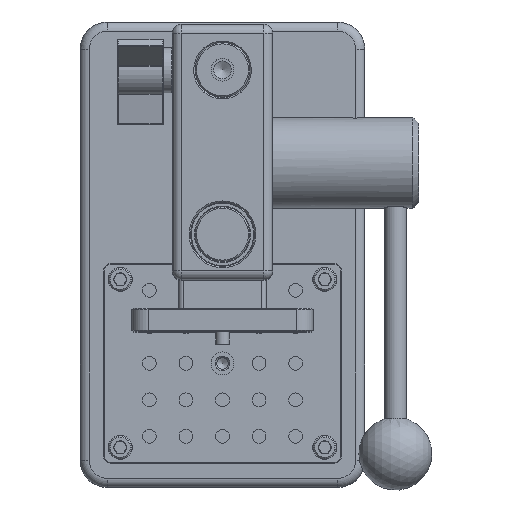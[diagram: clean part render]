
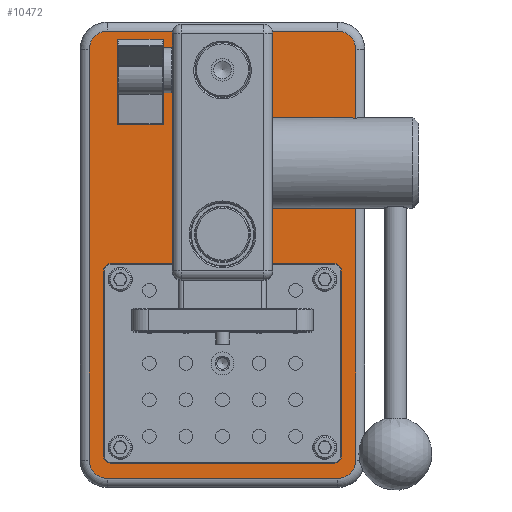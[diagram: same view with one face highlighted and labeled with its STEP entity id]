
A CAD part, top view. The second image highlights one B-rep face of the part: STEP entity #10472.
In plain terms, the highlighted planar face has unit normal (0, 0, 1).
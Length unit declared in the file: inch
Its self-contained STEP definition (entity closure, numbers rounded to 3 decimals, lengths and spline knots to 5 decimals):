
#8169=CARTESIAN_POINT('',(31.96631,2.10313,-5.809));
#8170=VERTEX_POINT('',#8169);
#8178=CARTESIAN_POINT('',(28.92631,2.10313,-5.809));
#8179=VERTEX_POINT('',#8178);
#8186=CARTESIAN_POINT('',(28.92631,2.10313,-5.809));
#8187=DIRECTION('',(1.0,0.0,0.0));
#8188=VECTOR('',#8187,3.04);
#8189=LINE('',#8186,#8188);
#8190=EDGE_CURVE('',#8179,#8170,#8189,.T.);
#8200=CARTESIAN_POINT('',(32.06631,2.20313,-5.809));
#8201=VERTEX_POINT('',#8200);
#8210=CARTESIAN_POINT('',(31.96631,2.20313,-5.809));
#8211=DIRECTION('',(0.,0.,1.0));
#8212=DIRECTION('',(0.707,-0.707,0.));
#8213=AXIS2_PLACEMENT_3D('',#8210,#8211,#8212);
#8214=CIRCLE('',#8213,0.1);
#8215=EDGE_CURVE('',#8170,#8201,#8214,.T.);
#8225=CARTESIAN_POINT('',(32.06631,4.72313,-5.809));
#8226=VERTEX_POINT('',#8225);
#8235=CARTESIAN_POINT('',(32.06631,2.20313,-5.809));
#8236=DIRECTION('',(0.0,1.0,0.0));
#8237=VECTOR('',#8236,2.52);
#8238=LINE('',#8235,#8237);
#8239=EDGE_CURVE('',#8201,#8226,#8238,.T.);
#8249=CARTESIAN_POINT('',(31.96631,4.82313,-5.809));
#8250=VERTEX_POINT('',#8249);
#8259=CARTESIAN_POINT('',(31.96631,4.72313,-5.809));
#8260=DIRECTION('',(0.,0.,1.0));
#8261=DIRECTION('',(0.707,0.707,0.));
#8262=AXIS2_PLACEMENT_3D('',#8259,#8260,#8261);
#8263=CIRCLE('',#8262,0.1);
#8264=EDGE_CURVE('',#8226,#8250,#8263,.T.);
#8275=CARTESIAN_POINT('',(28.92631,4.82313,-5.809));
#8276=VERTEX_POINT('',#8275);
#8277=CARTESIAN_POINT('',(31.96631,4.82313,-5.809));
#8278=DIRECTION('',(-1.0,0.0,0.0));
#8279=VECTOR('',#8278,3.04);
#8280=LINE('',#8277,#8279);
#8281=EDGE_CURVE('',#8250,#8276,#8280,.T.);
#8299=CARTESIAN_POINT('',(28.82631,4.72313,-5.809));
#8300=VERTEX_POINT('',#8299);
#8301=CARTESIAN_POINT('',(28.92631,4.72313,-5.809));
#8302=DIRECTION('',(0.,0.,1.0));
#8303=DIRECTION('',(-0.707,0.707,0.));
#8304=AXIS2_PLACEMENT_3D('',#8301,#8302,#8303);
#8305=CIRCLE('',#8304,0.1);
#8306=EDGE_CURVE('',#8276,#8300,#8305,.T.);
#8324=CARTESIAN_POINT('',(28.82631,2.20313,-5.809));
#8325=VERTEX_POINT('',#8324);
#8326=CARTESIAN_POINT('',(28.82631,4.72313,-5.809));
#8327=DIRECTION('',(0.0,-1.0,0.0));
#8328=VECTOR('',#8327,2.52);
#8329=LINE('',#8326,#8328);
#8330=EDGE_CURVE('',#8300,#8325,#8329,.T.);
#8348=CARTESIAN_POINT('',(28.92631,2.20313,-5.809));
#8349=DIRECTION('',(0.,0.,1.0));
#8350=DIRECTION('',(-0.707,-0.707,0.));
#8351=AXIS2_PLACEMENT_3D('',#8348,#8349,#8350);
#8352=CIRCLE('',#8351,0.1);
#8353=EDGE_CURVE('',#8325,#8179,#8352,.T.);
#8365=CARTESIAN_POINT('',(28.62131,2.13813,-5.809));
#8366=VERTEX_POINT('',#8365);
#8375=CARTESIAN_POINT('',(28.87131,1.88813,-5.809));
#8376=VERTEX_POINT('',#8375);
#8384=CARTESIAN_POINT('',(28.87131,2.13813,-5.809));
#8385=DIRECTION('',(0.0,0.0,-1.0));
#8386=DIRECTION('',(0.0,1.0,0.0));
#8387=AXIS2_PLACEMENT_3D('',#8384,#8385,#8386);
#8388=CIRCLE('',#8387,0.25);
#8389=EDGE_CURVE('',#8366,#8376,#8388,.F.);
#8399=CARTESIAN_POINT('',(28.62131,7.76313,-5.809));
#8400=VERTEX_POINT('',#8399);
#8410=CARTESIAN_POINT('',(28.62131,7.76313,-5.809));
#8411=DIRECTION('',(0.0,-1.0,0.0));
#8412=VECTOR('',#8411,5.625);
#8413=LINE('',#8410,#8412);
#8414=EDGE_CURVE('',#8400,#8366,#8413,.T.);
#8424=CARTESIAN_POINT('',(28.87131,8.01313,-5.809));
#8425=VERTEX_POINT('',#8424);
#8435=CARTESIAN_POINT('',(28.87131,7.76313,-5.809));
#8436=DIRECTION('',(0.0,0.0,-1.0));
#8437=DIRECTION('',(0.0,1.0,0.0));
#8438=AXIS2_PLACEMENT_3D('',#8435,#8436,#8437);
#8439=CIRCLE('',#8438,0.25);
#8440=EDGE_CURVE('',#8425,#8400,#8439,.F.);
#8451=CARTESIAN_POINT('',(32.02131,8.01313,-5.809));
#8452=VERTEX_POINT('',#8451);
#8453=CARTESIAN_POINT('',(32.02131,8.01313,-5.809));
#8454=DIRECTION('',(-1.0,0.0,0.0));
#8455=VECTOR('',#8454,3.15);
#8456=LINE('',#8453,#8455);
#8457=EDGE_CURVE('',#8452,#8425,#8456,.T.);
#8476=CARTESIAN_POINT('',(32.27131,7.76313,-5.809));
#8477=VERTEX_POINT('',#8476);
#8478=CARTESIAN_POINT('',(32.02131,7.76313,-5.809));
#8479=DIRECTION('',(0.0,0.0,-1.0));
#8480=DIRECTION('',(0.0,1.0,0.0));
#8481=AXIS2_PLACEMENT_3D('',#8478,#8479,#8480);
#8482=CIRCLE('',#8481,0.25);
#8483=EDGE_CURVE('',#8477,#8452,#8482,.F.);
#8502=CARTESIAN_POINT('',(32.27131,2.13813,-5.809));
#8503=VERTEX_POINT('',#8502);
#8504=CARTESIAN_POINT('',(32.27131,2.13813,-5.809));
#8505=DIRECTION('',(0.0,1.0,0.0));
#8506=VECTOR('',#8505,5.625);
#8507=LINE('',#8504,#8506);
#8508=EDGE_CURVE('',#8503,#8477,#8507,.T.);
#8526=CARTESIAN_POINT('',(32.02131,1.88813,-5.809));
#8527=VERTEX_POINT('',#8526);
#8537=CARTESIAN_POINT('',(32.02131,2.13813,-5.809));
#8538=DIRECTION('',(0.0,0.0,-1.0));
#8539=DIRECTION('',(0.0,1.0,0.0));
#8540=AXIS2_PLACEMENT_3D('',#8537,#8538,#8539);
#8541=CIRCLE('',#8540,0.25);
#8542=EDGE_CURVE('',#8527,#8503,#8541,.F.);
#8555=CARTESIAN_POINT('',(28.87131,1.88813,-5.809));
#8556=DIRECTION('',(1.0,0.0,0.0));
#8557=VECTOR('',#8556,3.15);
#8558=LINE('',#8555,#8557);
#8559=EDGE_CURVE('',#8376,#8527,#8558,.T.);
#10436=CARTESIAN_POINT('',(32.39631,1.76313,-5.809));
#10437=DIRECTION('',(0.0,0.0,-1.0));
#10438=DIRECTION('',(0.0,1.0,0.0));
#10439=AXIS2_PLACEMENT_3D('',#10436,#10437,#10438);
#10440=PLANE('',#10439);
#10441=ORIENTED_EDGE('',*,*,#8559,.T.);
#10442=ORIENTED_EDGE('',*,*,#8542,.T.);
#10443=ORIENTED_EDGE('',*,*,#8508,.T.);
#10444=ORIENTED_EDGE('',*,*,#8483,.T.);
#10445=ORIENTED_EDGE('',*,*,#8457,.T.);
#10446=ORIENTED_EDGE('',*,*,#8440,.T.);
#10447=ORIENTED_EDGE('',*,*,#8414,.T.);
#10448=ORIENTED_EDGE('',*,*,#8389,.T.);
#10449=EDGE_LOOP('',(#10441,#10442,#10443,#10444,#10445,#10446,#10447,#10448));
#10450=FACE_OUTER_BOUND('',#10449,.T.);
#10451=CARTESIAN_POINT('',(30.44631,7.10788,-5.809));
#10452=VERTEX_POINT('',#10451);
#10453=CARTESIAN_POINT('',(30.44631,7.46313,-5.809));
#10454=DIRECTION('',(0.0,0.0,-1.0));
#10455=DIRECTION('',(-1.0,0.0,0.0));
#10456=AXIS2_PLACEMENT_3D('',#10453,#10454,#10455);
#10457=CIRCLE('',#10456,0.35525);
#10458=EDGE_CURVE('',#10452,#10452,#10457,.T.);
#10459=ORIENTED_EDGE('',*,*,#10458,.T.);
#10460=EDGE_LOOP('',(#10459));
#10461=FACE_BOUND('',#10460,.T.);
#10462=ORIENTED_EDGE('',*,*,#8353,.F.);
#10463=ORIENTED_EDGE('',*,*,#8330,.F.);
#10464=ORIENTED_EDGE('',*,*,#8306,.F.);
#10465=ORIENTED_EDGE('',*,*,#8281,.F.);
#10466=ORIENTED_EDGE('',*,*,#8264,.F.);
#10467=ORIENTED_EDGE('',*,*,#8239,.F.);
#10468=ORIENTED_EDGE('',*,*,#8215,.F.);
#10469=ORIENTED_EDGE('',*,*,#8190,.F.);
#10470=EDGE_LOOP('',(#10462,#10463,#10464,#10465,#10466,#10467,#10468,#10469));
#10471=FACE_BOUND('',#10470,.T.);
#10472=ADVANCED_FACE('',(#10450,#10461,#10471),#10440,.F.);
